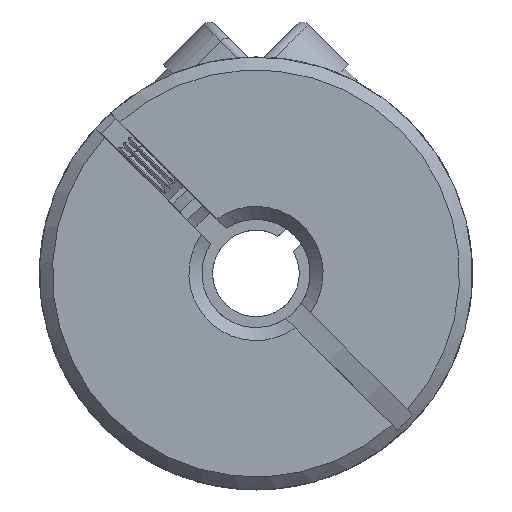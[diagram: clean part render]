
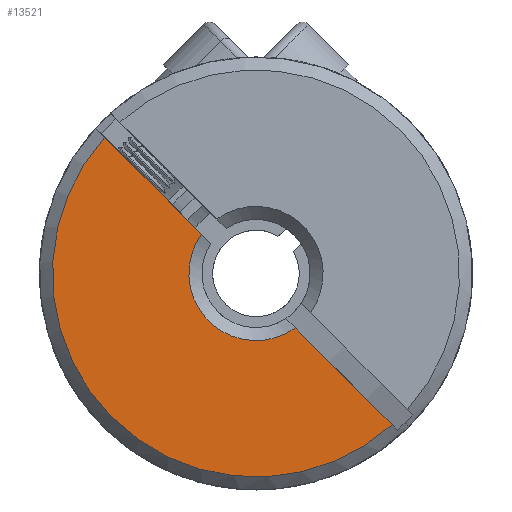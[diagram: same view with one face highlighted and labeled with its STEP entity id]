
A CAD part, front view. The second image highlights one B-rep face of the part: STEP entity #13521.
In plain terms, the highlighted planar face has unit normal (0, -1, 0).
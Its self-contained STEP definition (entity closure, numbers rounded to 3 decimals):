
#32 = EDGE_CURVE ( 'NONE', #9417, #10974, #2161, .T. ) ;
#1004 = DIRECTION ( 'NONE',  ( 0., -1., 0. ) ) ;
#1537 = VERTEX_POINT ( 'NONE', #4250 ) ;
#2161 = CIRCLE ( 'NONE', #8952, 3.1 ) ;
#2480 = CIRCLE ( 'NONE', #7130, 9.4 ) ;
#2950 = DIRECTION ( 'NONE',  ( -0.707, 0., 0.707 ) ) ;
#3214 = DIRECTION ( 'NONE',  ( -0.707, 0., 0.707 ) ) ;
#3373 = DIRECTION ( 'NONE',  ( 0., -1., 0. ) ) ;
#3453 = VECTOR ( 'NONE', #2950, 1000. ) ;
#4250 = CARTESIAN_POINT ( 'NONE',  ( 6.284, -11.2, -6.991 ) ) ;
#4500 = DIRECTION ( 'NONE',  ( 0., 1., 0. ) ) ;
#4554 = CARTESIAN_POINT ( 'NONE',  ( 0., -11.2, 0. ) ) ;
#5228 = ORIENTED_EDGE ( 'NONE', *, *, #12338, .T. ) ;
#5641 = CARTESIAN_POINT ( 'NONE',  ( -6.991, -11.2, 6.284 ) ) ;
#6327 = EDGE_LOOP ( 'NONE', ( #5228, #9048, #6992, #12285 ) ) ;
#6475 = VECTOR ( 'NONE', #3214, 1000. ) ;
#6518 = LINE ( 'NONE', #13319, #3453 ) ;
#6992 = ORIENTED_EDGE ( 'NONE', *, *, #8995, .T. ) ;
#7130 = AXIS2_PLACEMENT_3D ( 'NONE', #8940, #1004, #14873 ) ;
#7694 = CARTESIAN_POINT ( 'NONE',  ( -2.517, -11.2, 1.81 ) ) ;
#8940 = CARTESIAN_POINT ( 'NONE',  ( 0., -11.2, 0. ) ) ;
#8952 = AXIS2_PLACEMENT_3D ( 'NONE', #4554, #4500, #12493 ) ;
#8995 = EDGE_CURVE ( 'NONE', #1537, #9417, #6518, .T. ) ;
#9048 = ORIENTED_EDGE ( 'NONE', *, *, #14767, .T. ) ;
#9127 = AXIS2_PLACEMENT_3D ( 'NONE', #13695, #3373, #11467 ) ;
#9193 = FACE_OUTER_BOUND ( 'NONE', #6327, .T. ) ;
#9417 = VERTEX_POINT ( 'NONE', #13092 ) ;
#10180 = CARTESIAN_POINT ( 'NONE',  ( 0.205, -11.2, -0.912 ) ) ;
#10974 = VERTEX_POINT ( 'NONE', #7694 ) ;
#11373 = PLANE ( 'NONE',  #9127 ) ;
#11467 = DIRECTION ( 'NONE',  ( -0.707, 0., 0.707 ) ) ;
#12285 = ORIENTED_EDGE ( 'NONE', *, *, #32, .T. ) ;
#12332 = VERTEX_POINT ( 'NONE', #5641 ) ;
#12338 = EDGE_CURVE ( 'NONE', #10974, #12332, #14248, .T. ) ;
#12493 = DIRECTION ( 'NONE',  ( -0.707, 0., 0.707 ) ) ;
#13092 = CARTESIAN_POINT ( 'NONE',  ( 1.81, -11.2, -2.517 ) ) ;
#13319 = CARTESIAN_POINT ( 'NONE',  ( -8.839, -11.2, 8.132 ) ) ;
#13521 = ADVANCED_FACE ( 'NONE', ( #9193 ), #11373, .T. ) ;
#13695 = CARTESIAN_POINT ( 'NONE',  ( 45.083, -11.2, 25.627 ) ) ;
#14248 = LINE ( 'NONE', #10180, #6475 ) ;
#14767 = EDGE_CURVE ( 'NONE', #12332, #1537, #2480, .T. ) ;
#14873 = DIRECTION ( 'NONE',  ( -0.707, 0., 0.707 ) ) ;
